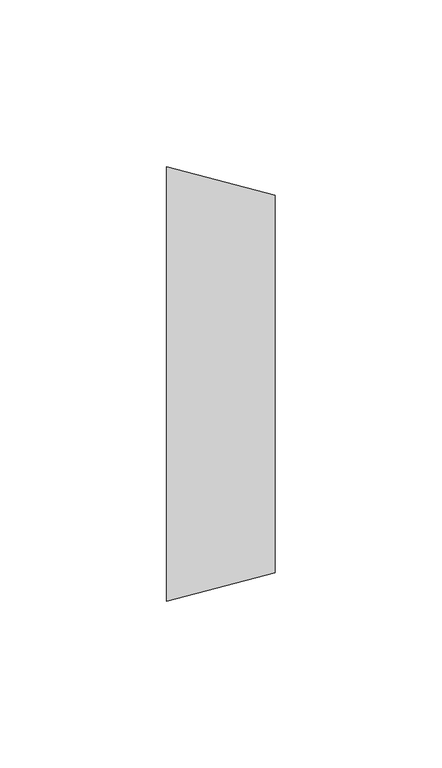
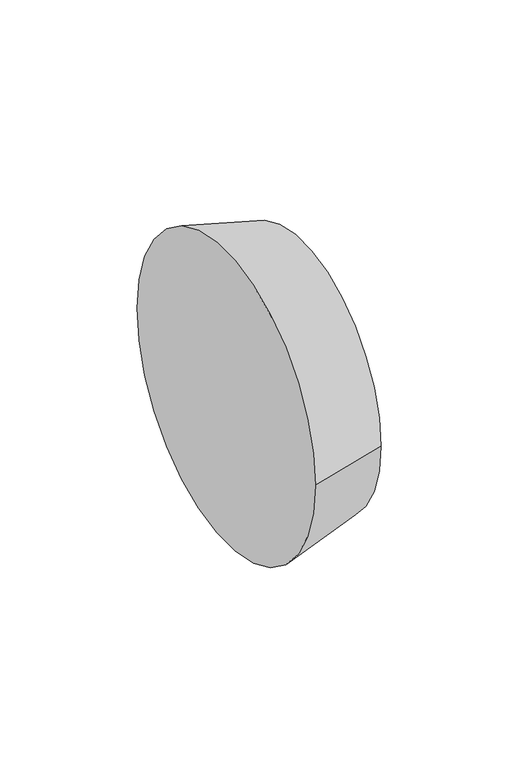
"""IFC4 building model written with IfcOpenShell, lengths in millimetres: pipe fitting geometry, M_Transición - Genérica : Estándar."""

from ifc_helpers import new_model, si_unit, frame, origin, place, context, project, spatial, circle_curve, source, transform, mapped, element, save
from ifc_brep_helpers import plane_surface, spline_surface, advanced_brep


def pipe_fitting_65ddb89c(model_context):
    return source(origin(), model_context, "Body", "AdvancedBrep", [
        advanced_brep(
        [(32.54375, -56.5829033, 1.004954), (32.54375, 56.5920967, 1.004954), (0.0, -65.0875, 0.0), (0.0, 65.0875, 0.0)],
        [
            (0, 1, circle_curve(frame((32.54375, 0.0045967, 1.004954), z_axis=(1.0, 0.0, 0.0), x_axis=(0.0, 1.0, 0.0)), 56.5875)),
            (1, 0, circle_curve(frame((32.54375, 0.0045967, 1.004954), z_axis=(1.0, 0.0, 0.0), x_axis=(0.0, 1.0, 0.0)), 56.5875)),
            (2, 3, circle_curve(frame((0.0, 0.0, 0.0), z_axis=(-1.0, 0.0, 0.0), x_axis=(0.0, 1.0, 0.0)), 65.0875)),
            (3, 2, circle_curve(frame((0.0, 0.0, 0.0), z_axis=(-1.0, 0.0, 0.0), x_axis=(0.0, 1.0, 0.0)), 65.0875)),
            (3, 1),
            (0, 2),
        ],
        [
            plane_surface(frame((32.54375, 0.0045967, 1.004954), z_axis=(1.0, 0.0, 0.0), x_axis=(0.0, 0.0, -1.0))),
            plane_surface(frame((0.0, 0.0, 0.0), z_axis=(-1.0, 0.0, 0.0), x_axis=(0.0, 0.0, -1.0))),
            spline_surface(2, 1, [[(0.0, -65.0875, 0.0), (32.54375, -56.5829033, 1.004954)], [(0.0, -65.0875, -65.0875), (32.54375, -56.5829033, -55.582546)], [(0.0, 0.0, -65.0875), (32.54375, 0.0045967, -55.582546)], [(0.0, 65.0875, -65.0875), (32.54375, 56.5920967, -55.582546)], [(0.0, 65.0875, 0.0), (32.54375, 56.5920967, 1.004954)]], [3, 2, 3], [2, 2], [0.0, 1.0, 2.0], [0.0, 1.0], weights=[[1.0, 1.0], [0.7071067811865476, 0.7071067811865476], [1.0, 1.0], [0.7071067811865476, 0.7071067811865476], [1.0, 1.0]]),
            spline_surface(2, 1, [[(0.0, 65.0875, 0.0), (32.54375, 56.5920967, 1.004954)], [(0.0, 65.0875, 65.0875), (32.54375, 56.5920967, 57.592454)], [(0.0, 0.0, 65.0875), (32.54375, 0.0045967, 57.592454)], [(0.0, -65.0875, 65.0875), (32.54375, -56.5829033, 57.592454)], [(0.0, -65.0875, 0.0), (32.54375, -56.5829033, 1.004954)]], [3, 2, 3], [2, 2], [0.0, 1.0, 2.0], [0.0, 1.0], weights=[[1.0, 1.0], [0.7071067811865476, 0.7071067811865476], [1.0, 1.0], [0.7071067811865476, 0.7071067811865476], [1.0, 1.0]]),
        ],
        [
            (0, [[1, 2]]),
            (1, [[3, 4]]),
            (2, [[-4, 5, -1, 6]]),
            (3, [[-3, -6, -2, -5]]),
        ],
    ),
    ])


if __name__ == "__main__":
    model = new_model("IFC4")
    model_context = context("Model", 3, world=origin())
    ifc_project = project(units=[si_unit("LENGTHUNIT", "METRE", prefix="MILLI")], contexts=[model_context])
    site = spatial("IfcSite", under=ifc_project)
    building = spatial("IfcBuilding", under=site)
    placement = place(None, origin())
    pipe_fitting_shape = pipe_fitting_65ddb89c(model_context)
    element("IfcPipeFitting", 1, ObjectType="M_Transición - Genérica : Estándar", at=placement, inside=building, context=model_context, shape_type="MappedRepresentation", body=[
        mapped(pipe_fitting_shape, transform((0.0, 0.0, 0.0), x_axis=(1.0, 0.0, 0.0), y_axis=(0.0, 1.0, 0.0), z_axis=(0.0, 0.0, 1.0))),
    ])
    save(model, "model.ifc")
